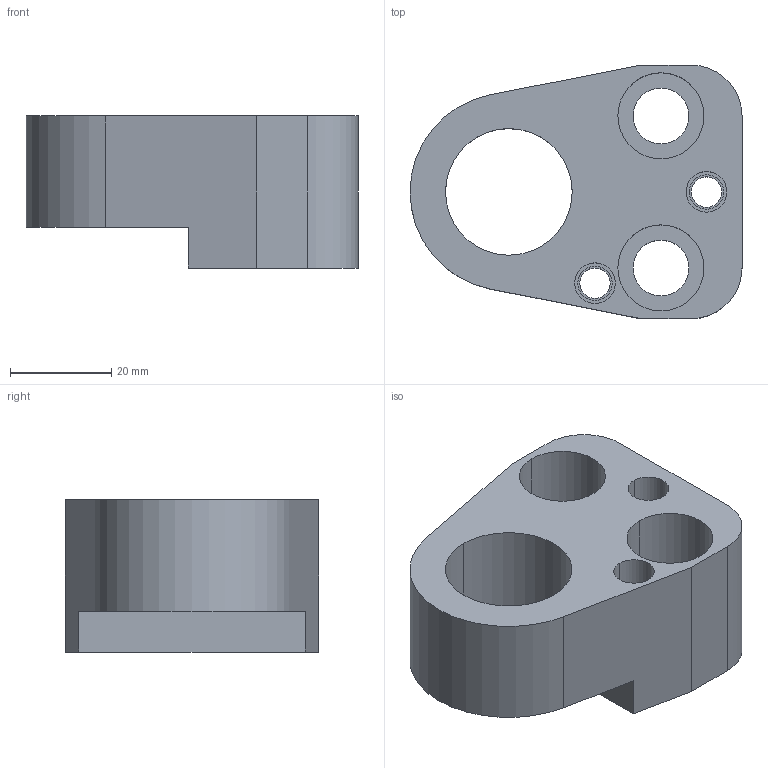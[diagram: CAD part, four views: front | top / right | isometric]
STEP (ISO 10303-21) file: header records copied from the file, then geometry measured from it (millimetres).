
FILE_DESCRIPTION(/* description */ (''),/* implementation_level */ '2;1');
FILE_NAME(/* name */ '3d_ap-fn25_03191_r00.stp',/* time_stamp */ '2011-01-10T14:17:46+09:00',/* author */ ('MISUMI'),/* organization */ (''),/* preprocessor_version */ 'ST-DEVELOPER v11',/* originating_system */ 'UGS - NX 5.0',/* authorisation */ '');
FILE_SCHEMA (('CONFIG_CONTROL_DESIGN'));
Length unit declared in the file: millimetre
Products named in the file (1): 3d_ap-fn25_03191_r00
Bounding box: 65.5 x 50 x 30 mm (x, y, z)
Volume: 49938.3 mm3; surface area: 15119.9 mm2
Topology: 1 solids, 1 shells, 42 faces, 104 edges, 69 vertices
Faces by surface type: cylinder 25, plane 15, cone 2
Entity records: 1382 total; most frequent: DIRECTION 242, CARTESIAN_POINT 221, ORIENTED_EDGE 208, EDGE_CURVE 104, AXIS2_PLACEMENT_3D 96, VERTEX_POINT 69, EDGE_LOOP 57, CIRCLE 53
